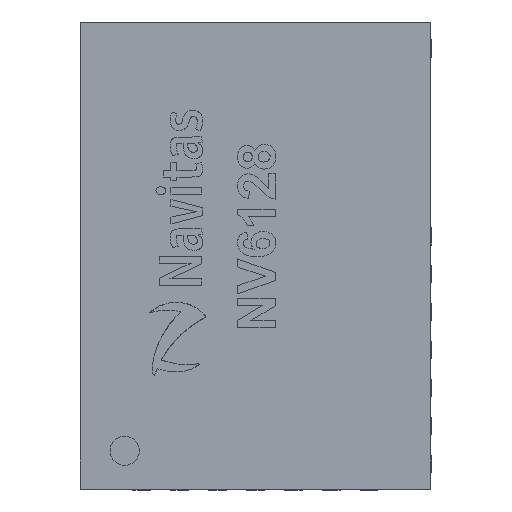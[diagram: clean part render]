
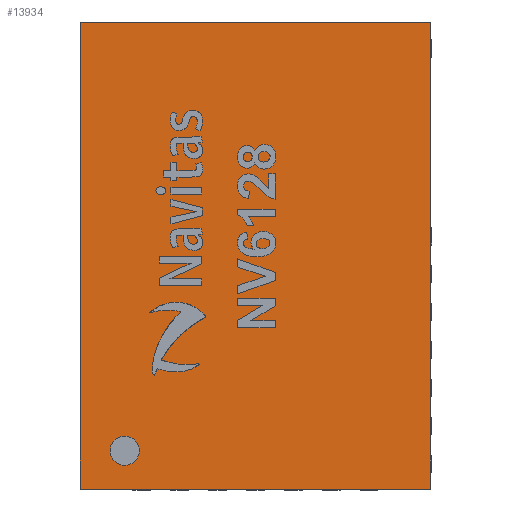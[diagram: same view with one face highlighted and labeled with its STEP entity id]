
A CAD part, top view. The second image highlights one B-rep face of the part: STEP entity #13934.
In plain terms, the highlighted planar face has unit normal (0, 0, 1).
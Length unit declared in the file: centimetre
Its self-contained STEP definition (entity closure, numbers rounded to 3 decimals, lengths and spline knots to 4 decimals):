
#1656=FACE_OUTER_BOUND($,#2477,.T.);
#2477=EDGE_LOOP($,(#9252,#9253,#9254,#9255));
#3318=LINE($,#16924,#4458);
#3319=LINE($,#16926,#4459);
#3320=LINE($,#16928,#4460);
#3321=LINE($,#16929,#4461);
#4458=VECTOR($,#15171,0.6);
#4459=VECTOR($,#15172,0.8);
#4460=VECTOR($,#15173,0.6);
#4461=VECTOR($,#15174,0.8);
#5598=VERTEX_POINT($,#16922);
#5599=VERTEX_POINT($,#16923);
#5600=VERTEX_POINT($,#16925);
#5601=VERTEX_POINT($,#16927);
#7060=EDGE_CURVE($,#5598,#5599,#3318,.T.);
#7061=EDGE_CURVE($,#5599,#5600,#3319,.T.);
#7062=EDGE_CURVE($,#5600,#5601,#3320,.T.);
#7063=EDGE_CURVE($,#5601,#5598,#3321,.T.);
#9252=ORIENTED_EDGE($,*,*,#7060,.T.);
#9253=ORIENTED_EDGE($,*,*,#7061,.T.);
#9254=ORIENTED_EDGE($,*,*,#7062,.T.);
#9255=ORIENTED_EDGE($,*,*,#7063,.T.);
#13633=PLANE($,#14858);
#13934=ADVANCED_FACE($,(#1656),#13633,.F.);
#14858=AXIS2_PLACEMENT_3D($,#16921,#15169,#15170);
#15169=DIRECTION('center_axis',(0.,0.,-1.));
#15170=DIRECTION('ref_axis',(0.,-1.,0.));
#15171=DIRECTION($,(1.,0.,0.));
#15172=DIRECTION($,(0.,1.,0.));
#15173=DIRECTION($,(-1.,0.,0.));
#15174=DIRECTION($,(0.,-1.,0.));
#16921=CARTESIAN_POINT('Origin',(-0.306,0.4051,0.095));
#16922=CARTESIAN_POINT('',(-0.606,0.0051,0.095));
#16923=CARTESIAN_POINT('',(-0.006,0.0051,0.095));
#16924=CARTESIAN_POINT($,(-0.306,0.0051,0.095));
#16925=CARTESIAN_POINT('',(-0.006,0.8051,0.095));
#16926=CARTESIAN_POINT($,(-0.006,0.4051,0.095));
#16927=CARTESIAN_POINT('',(-0.606,0.8051,0.095));
#16928=CARTESIAN_POINT($,(-0.306,0.8051,0.095));
#16929=CARTESIAN_POINT($,(-0.606,0.4051,0.095));
